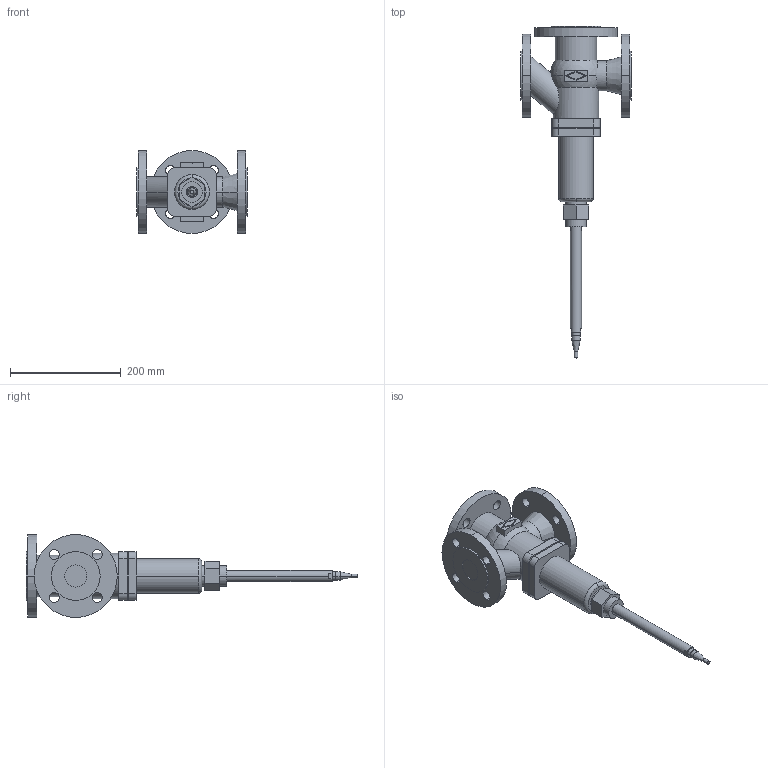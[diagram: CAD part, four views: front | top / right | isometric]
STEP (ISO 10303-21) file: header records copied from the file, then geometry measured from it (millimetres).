
FILE_DESCRIPTION( ( '' ), '1' );
FILE_NAME( 'F:/DE-SHS/TB/OR/04-Sonstiges/daten/files_3d/773-Mischventil/773-Mischventil_PN40/c000006181.stp', '2016-04-11T09:10:42', ( '' ), ( '' ), ' ', ' ', ' ' );
FILE_SCHEMA( ( 'CONFIG_CONTROL_DESIGN' ) );
Length unit declared in the file: millimetre
Products named in the file (1): 1
Bounding box: 200 x 600.44 x 150 mm (x, y, z)
Volume: 2604183.3 mm3; surface area: 250152.6 mm2
Topology: 1 solids, 1 shells, 141 faces, 349 edges, 231 vertices
Faces by surface type: cylinder 72, plane 60, cone 4, sphere 3, torus 2
Entity records: 5130 total; most frequent: CARTESIAN_POINT 1530, DIRECTION 792, ORIENTED_EDGE 698, EDGE_CURVE 349, AXIS2_PLACEMENT_3D 313, VERTEX_POINT 231, EDGE_LOOP 186, CIRCLE 169
